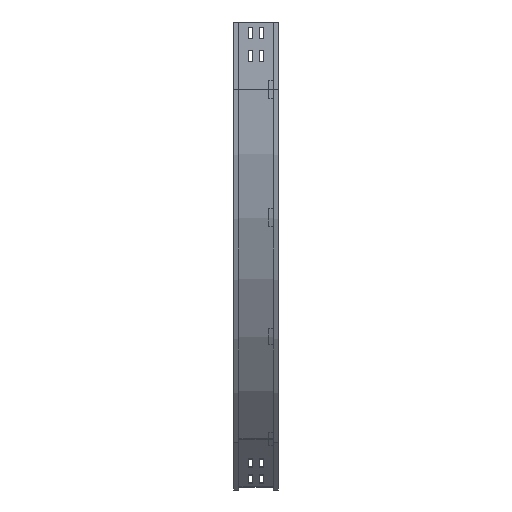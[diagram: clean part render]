
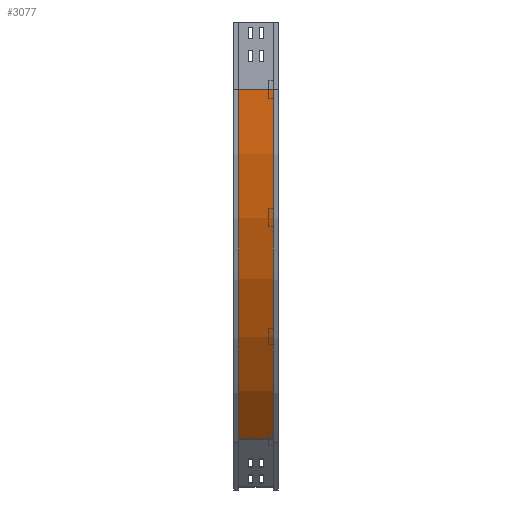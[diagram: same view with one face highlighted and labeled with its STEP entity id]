
A CAD part, left-side view. The second image highlights one B-rep face of the part: STEP entity #3077.
In plain terms, the highlighted cylindrical face has radius 1100 mm (diameter 2200 mm), a partial arc.
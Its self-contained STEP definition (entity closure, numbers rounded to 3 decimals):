
#185 = CIRCLE ( 'NONE', #338, 1100. ) ;
#254 = LINE ( 'NONE', #3413, #1308 ) ;
#338 = AXIS2_PLACEMENT_3D ( 'NONE', #889, #3692, #913 ) ;
#415 = CARTESIAN_POINT ( 'NONE',  ( 331.183, 12., -927.817 ) ) ;
#422 = CARTESIAN_POINT ( 'NONE',  ( 331.183, 88., -927.817 ) ) ;
#672 = DIRECTION ( 'NONE',  ( 0., -1., 0. ) ) ;
#673 = VECTOR ( 'NONE', #1055, 1000. ) ;
#728 = EDGE_CURVE ( 'NONE', #2594, #3154, #1846, .T. ) ;
#889 = CARTESIAN_POINT ( 'NONE',  ( 1109., 88., -150. ) ) ;
#913 = DIRECTION ( 'NONE',  ( -1., 0., 0. ) ) ;
#1005 = ORIENTED_EDGE ( 'NONE', *, *, #3758, .T. ) ;
#1055 = DIRECTION ( 'NONE',  ( 0., -1., 0. ) ) ;
#1065 = VERTEX_POINT ( 'NONE', #422 ) ;
#1066 = CARTESIAN_POINT ( 'NONE',  ( 1109., 0., -150. ) ) ;
#1113 = DIRECTION ( 'NONE',  ( 0., 0., -1. ) ) ;
#1212 = ORIENTED_EDGE ( 'NONE', *, *, #2196, .F. ) ;
#1308 = VECTOR ( 'NONE', #672, 1000. ) ;
#1440 = EDGE_LOOP ( 'NONE', ( #3485, #1212, #1005, #2200 ) ) ;
#1846 = CIRCLE ( 'NONE', #3578, 1100. ) ;
#2039 = CARTESIAN_POINT ( 'NONE',  ( 9., 12., -150. ) ) ;
#2196 = EDGE_CURVE ( 'NONE', #2952, #2594, #3466, .T. ) ;
#2200 = ORIENTED_EDGE ( 'NONE', *, *, #4252, .T. ) ;
#2322 = DIRECTION ( 'NONE',  ( 0., -1., 0. ) ) ;
#2343 = CARTESIAN_POINT ( 'NONE',  ( 9., 88., -150. ) ) ;
#2594 = VERTEX_POINT ( 'NONE', #3416 ) ;
#2859 = FACE_OUTER_BOUND ( 'NONE', #1440, .T. ) ;
#2952 = VERTEX_POINT ( 'NONE', #2343 ) ;
#3077 = ADVANCED_FACE ( 'NONE', ( #2859 ), #3560, .T. ) ;
#3154 = VERTEX_POINT ( 'NONE', #415 ) ;
#3413 = CARTESIAN_POINT ( 'NONE',  ( 331.183, 12., -927.817 ) ) ;
#3416 = CARTESIAN_POINT ( 'NONE',  ( 9., 12., -150. ) ) ;
#3466 = LINE ( 'NONE', #2039, #673 ) ;
#3485 = ORIENTED_EDGE ( 'NONE', *, *, #728, .F. ) ;
#3498 = DIRECTION ( 'NONE',  ( 0., -1., 0. ) ) ;
#3560 = CYLINDRICAL_SURFACE ( 'NONE', #4389, 1100. ) ;
#3578 = AXIS2_PLACEMENT_3D ( 'NONE', #4105, #2322, #4082 ) ;
#3692 = DIRECTION ( 'NONE',  ( 0., -1., 0. ) ) ;
#3758 = EDGE_CURVE ( 'NONE', #2952, #1065, #185, .T. ) ;
#4082 = DIRECTION ( 'NONE',  ( -1., 0., 0. ) ) ;
#4105 = CARTESIAN_POINT ( 'NONE',  ( 1109., 12., -150. ) ) ;
#4252 = EDGE_CURVE ( 'NONE', #1065, #3154, #254, .T. ) ;
#4389 = AXIS2_PLACEMENT_3D ( 'NONE', #1066, #3498, #1113 ) ;
